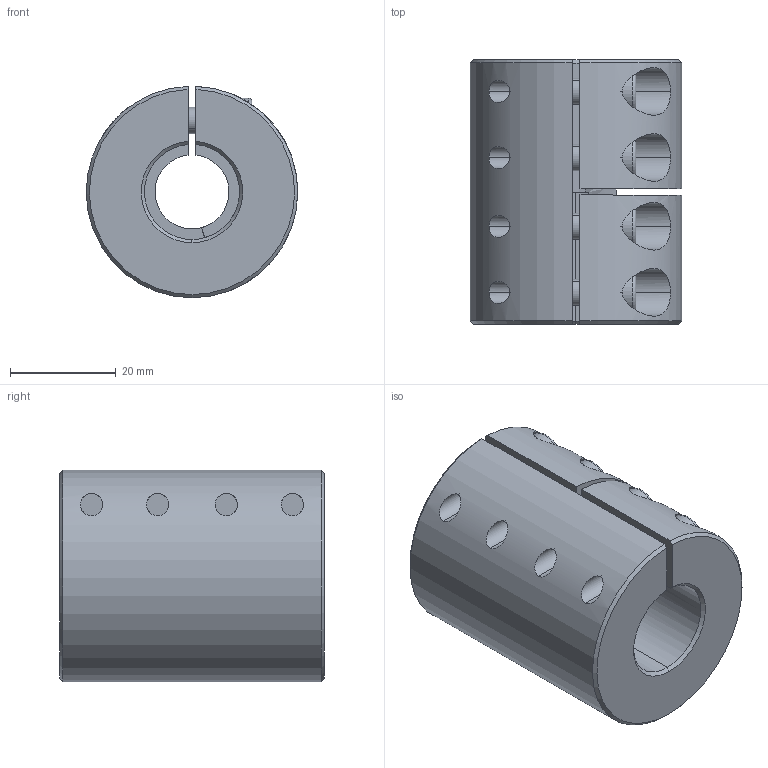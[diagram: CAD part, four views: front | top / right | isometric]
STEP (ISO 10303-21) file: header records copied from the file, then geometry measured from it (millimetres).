
FILE_DESCRIPTION (( 'STEP AP214' ), '1' );
FILE_NAME ('LL-B-D40L50-14-18½¨Ä£.STEP', '2022-07-22T00:24:49', ( '' ), ( '' ), 'SwSTEP 2.0', 'SolidWorks 2022', '' );
FILE_SCHEMA (( 'AUTOMOTIVE_DESIGN' ));
Length unit declared in the file: millimetre
Products named in the file (1): LL-B-D40L50-14-18膘耀
Bounding box: 40 x 50 x 39.99 mm (x, y, z)
Volume: 49687.5 mm3; surface area: 15350.7 mm2
Topology: 1 solids, 1 shells, 176 faces, 444 edges, 278 vertices
Faces by surface type: plane 84, cylinder 70, cone 14, torus 8
Entity records: 5801 total; most frequent: CARTESIAN_POINT 1475, DIRECTION 941, ORIENTED_EDGE 872, EDGE_CURVE 436, AXIS2_PLACEMENT_3D 368, VERTEX_POINT 278, EDGE_LOOP 208, VECTOR 205
